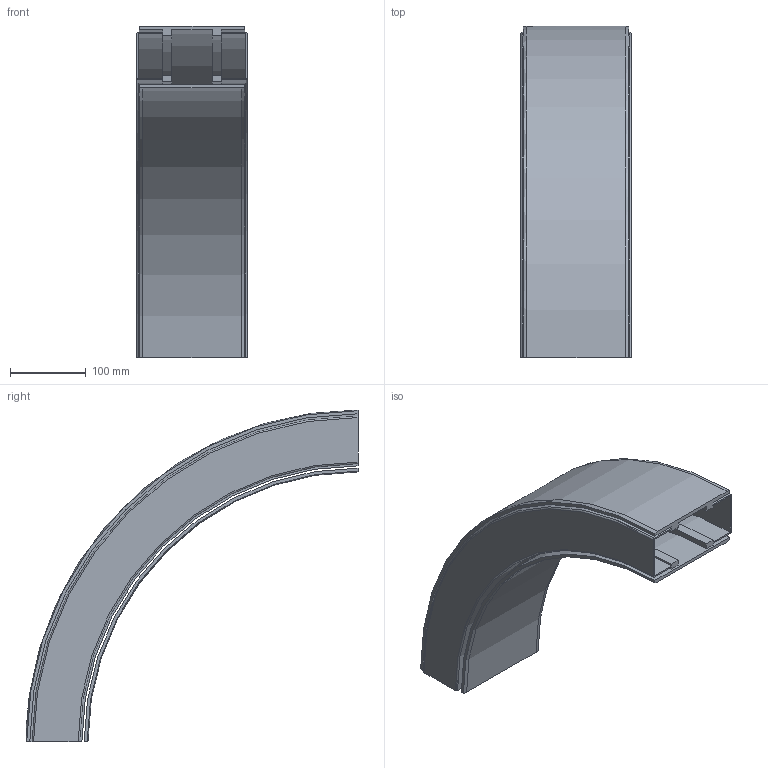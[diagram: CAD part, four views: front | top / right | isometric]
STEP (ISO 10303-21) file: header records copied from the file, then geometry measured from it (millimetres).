
FILE_DESCRIPTION((''),'2;1');
FILE_NAME('C:\Vault Klient\Projekt\Koncept konstruktion\Serie 540 Balk\540-5640_DOWN.stp','2010-11-25T11:24:05',('Mathias'),(''),'Autodesk Inventor 2011','Autodesk Inventor 2011','');
FILE_SCHEMA(('AUTOMOTIVE_DESIGN { 1 0 10303 214 1 1 1 1 }'));
Length unit declared in the file: millimetre
Products named in the file (1): 540-5640_DOWN
Bounding box: 146 x 439.5 x 439.5 mm (x, y, z)
Volume: 1438302.9 mm3; surface area: 746318.3 mm2
Topology: 2 solids, 2 shells, 87 faces, 234 edges, 156 vertices
Faces by surface type: plane 38, cylinder 25, bspline 14, cone 6, torus 4
Entity records: 3154 total; most frequent: CARTESIAN_POINT 916, ORIENTED_EDGE 468, DIRECTION 428, EDGE_CURVE 234, VERTEX_POINT 156, AXIS2_PLACEMENT_3D 148, VECTOR 132, LINE 132
